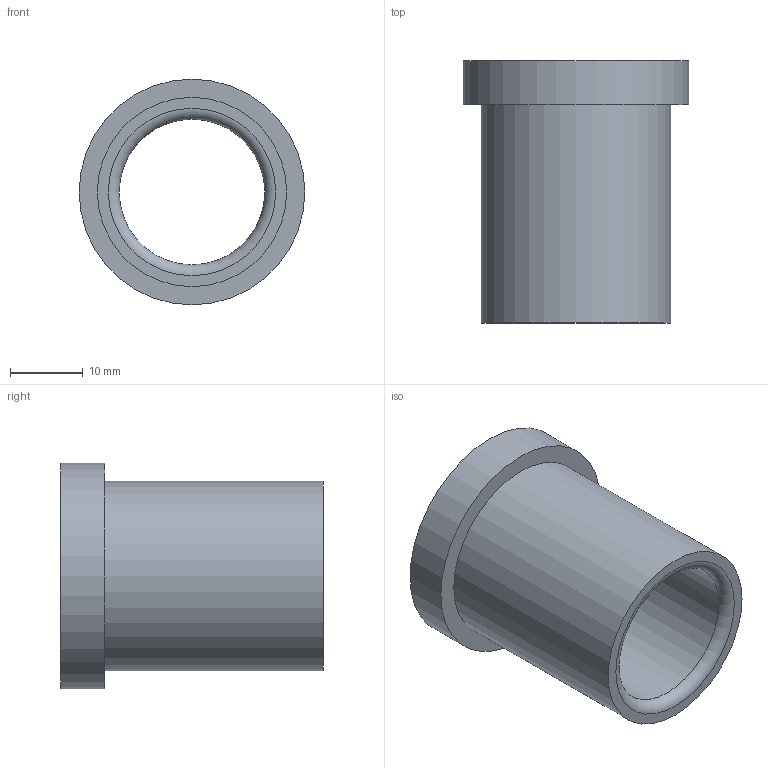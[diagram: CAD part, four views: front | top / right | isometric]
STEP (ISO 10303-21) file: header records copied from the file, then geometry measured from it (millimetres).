
FILE_DESCRIPTION(/* description */ ('STEP AP214'),/* implementation_level */ '2;1');
FILE_NAME(/* name */ '03_12_17923',/* time_stamp */ '2023-06-15T11:35:31+02:00',/* author */ ('License CC BY-ND 4.0'),/* organization */ ('CADENAS'),/* preprocessor_version */ 'ST-DEVELOPER v19.3',/* originating_system */ 'PARTsolutions',/* authorisation */ ' ');
FILE_SCHEMA (('AUTOMOTIVE_DESIGN {1 0 10303 214 3 1 1}'));
Length unit declared in the file: millimetre
Products named in the file (1): VA_Bushing_17923
Bounding box: 31 x 36 x 31 mm (x, y, z)
Volume: 8945.4 mm3; surface area: 6111.4 mm2
Topology: 1 solids, 1 shells, 10 faces, 16 edges, 10 vertices
Faces by surface type: cylinder 4, plane 4, torus 2
Full cylindrical faces by diameter (mm): 20 x1, 20.6 x1, 26 x1, 31 x1
Entity records: 302 total; most frequent: DIRECTION 42, CARTESIAN_POINT 31, AXIS2_PLACEMENT_3D 21, ORIENTED_EDGE 20, EDGE_LOOP 20, FACE_BOUND 20, EDGE_CURVE 10, VERTEX_POINT 10
